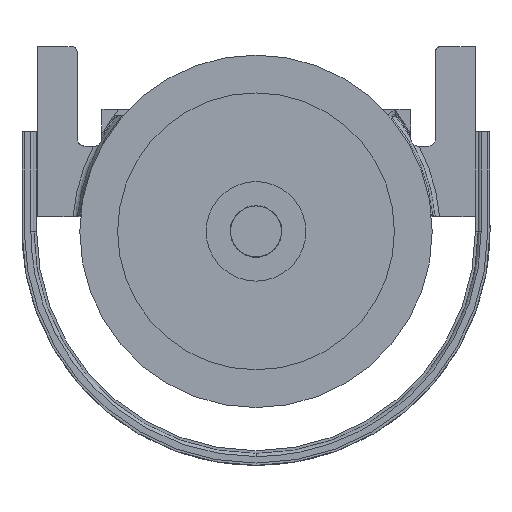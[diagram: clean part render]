
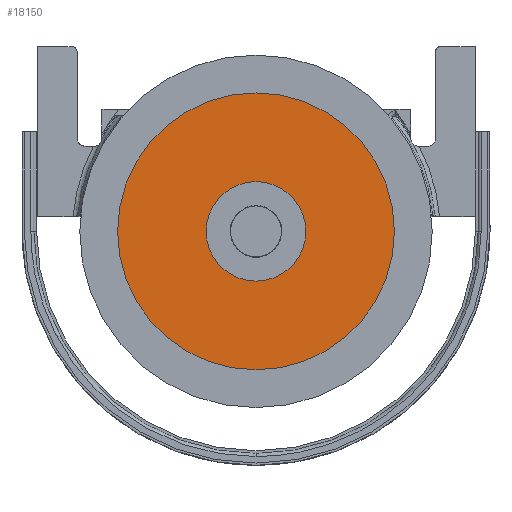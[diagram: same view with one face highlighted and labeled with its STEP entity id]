
A CAD part, front view. The second image highlights one B-rep face of the part: STEP entity #18150.
In plain terms, the highlighted planar face has unit normal (0, -1, 0).
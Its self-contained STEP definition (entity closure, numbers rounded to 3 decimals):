
#3792 = CIRCLE ( 'NONE', #4787, 50. ) ;
#3793 = CIRCLE ( 'NONE', #4789, 139. ) ;
#3811 = CIRCLE ( 'NONE', #4807, 139. ) ;
#3845 = AXIS2_PLACEMENT_3D ( 'NONE', #27862, #27863, #27864 ) ;
#4787 = AXIS2_PLACEMENT_3D ( 'NONE', #15489, #15490, #15491 ) ;
#4789 = AXIS2_PLACEMENT_3D ( 'NONE', #15492, #15493, #15494 ) ;
#4807 = AXIS2_PLACEMENT_3D ( 'NONE', #15527, #15528, #15529 ) ;
#4809 = AXIS2_PLACEMENT_3D ( 'NONE', #15532, #15533, #15534 ) ;
#10606 = EDGE_LOOP ( 'NONE', ( #41523, #41522 ) ) ;
#10682 = EDGE_LOOP ( 'NONE', ( #41527, #41526 ) ) ;
#15489 = CARTESIAN_POINT ( 'NONE',  ( 235., -51.5, -100. ) ) ;
#15490 = DIRECTION ( 'NONE',  ( 0., 1., 0. ) ) ;
#15491 = DIRECTION ( 'NONE',  ( -1., 0., 0. ) ) ;
#15492 = CARTESIAN_POINT ( 'NONE',  ( 235., -51.5, -100. ) ) ;
#15493 = DIRECTION ( 'NONE',  ( 0., 1., 0. ) ) ;
#15494 = DIRECTION ( 'NONE',  ( -1., 0., 0. ) ) ;
#15527 = CARTESIAN_POINT ( 'NONE',  ( 235., -51.5, -100. ) ) ;
#15528 = DIRECTION ( 'NONE',  ( 0., 1., 0. ) ) ;
#15529 = DIRECTION ( 'NONE',  ( -1., 0., 0. ) ) ;
#15532 = CARTESIAN_POINT ( 'NONE',  ( 235., -51.5, -100. ) ) ;
#15533 = DIRECTION ( 'NONE',  ( 0., 1., 0. ) ) ;
#15534 = DIRECTION ( 'NONE',  ( -1., 0., 0. ) ) ;
#16756 = CIRCLE ( 'NONE', #4809, 50. ) ;
#17370 = CARTESIAN_POINT ( 'NONE',  ( 374., -51.5, -100. ) ) ;
#17392 = CARTESIAN_POINT ( 'NONE',  ( 96., -51.5, -100. ) ) ;
#17394 = CARTESIAN_POINT ( 'NONE',  ( 285., -51.5, -100. ) ) ;
#17414 = CARTESIAN_POINT ( 'NONE',  ( 185., -51.5, -100. ) ) ;
#18150 = ADVANCED_FACE ( 'NONE', ( #27101, #27102 ), #27861, .T. ) ;
#26057 = EDGE_CURVE ( 'NONE', #30230, #30250, #3792, .T. ) ;
#26058 = EDGE_CURVE ( 'NONE', #30206, #30228, #3793, .T. ) ;
#26071 = EDGE_CURVE ( 'NONE', #30228, #30206, #3811, .T. ) ;
#26073 = EDGE_CURVE ( 'NONE', #30250, #30230, #16756, .T. ) ;
#27101 = FACE_OUTER_BOUND ( 'NONE', #10682, .T. ) ;
#27102 = FACE_BOUND ( 'NONE', #10606, .T. ) ;
#27861 = PLANE ( 'NONE',  #3845 ) ;
#27862 = CARTESIAN_POINT ( 'NONE',  ( 96., -51.5, -100. ) ) ;
#27863 = DIRECTION ( 'NONE',  ( 0., -1., 0. ) ) ;
#27864 = DIRECTION ( 'NONE',  ( 1., 0., 0. ) ) ;
#30206 = VERTEX_POINT ( 'NONE', #17370 ) ;
#30228 = VERTEX_POINT ( 'NONE', #17392 ) ;
#30230 = VERTEX_POINT ( 'NONE', #17394 ) ;
#30250 = VERTEX_POINT ( 'NONE', #17414 ) ;
#41522 = ORIENTED_EDGE ( 'NONE', *, *, #26057, .T. ) ;
#41523 = ORIENTED_EDGE ( 'NONE', *, *, #26073, .T. ) ;
#41526 = ORIENTED_EDGE ( 'NONE', *, *, #26058, .F. ) ;
#41527 = ORIENTED_EDGE ( 'NONE', *, *, #26071, .F. ) ;
